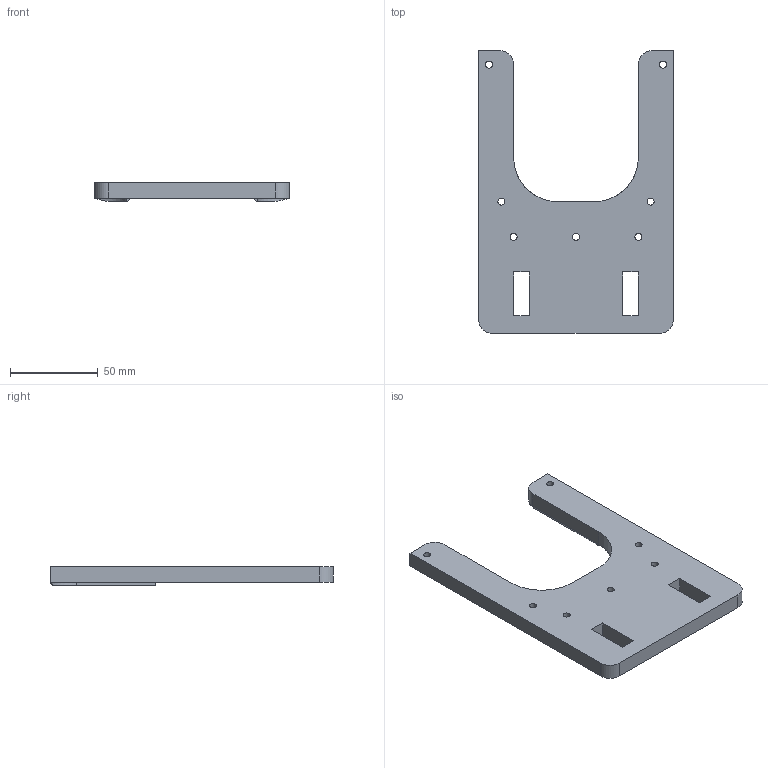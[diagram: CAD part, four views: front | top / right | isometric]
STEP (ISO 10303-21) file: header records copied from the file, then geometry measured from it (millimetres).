
FILE_DESCRIPTION(/* description */ ('STEP AP242 Edition 2','CAx-IF Rec.Pracs.---Representation and Presentation of Product Manufacturing Information (PMI)---4.0---2014-10-13','CAx-IF Rec.Pracs.---3D Tessellated Geometry---0.4---2014-09-14','2;1','CAx-IF Rec.Pracs.---User Defined Attributes---1.5---2016-08-15'),/* implementation_level */ '2;1');
FILE_NAME(/* name */ 'Part Studio 1 - upper_part',/* time_stamp */ '2026-04-19T16:25:01Z',/* author */ (''),/* organization */ (''),/* preprocessor_version */ 'ST-DEVELOPER v20',/* originating_system */ 'ONSHAPE BY PTC INC, 1.213',/* authorisation */ ' ');
FILE_SCHEMA (('AP242_MANAGED_MODEL_BASED_3D_ENGINEERING_MIM_LF { 1 0 10303 442 3 1 4 }'));
Length unit declared in the file: metre
Products named in the file (1): upper_part
Bounding box: 111 x 161 x 10.8 mm (x, y, z)
Volume: 103461.2 mm3; surface area: 31406.6 mm2
Topology: 1 solids, 1 shells, 47 faces, 127 edges, 82 vertices
Faces by surface type: plane 24, cylinder 19, torus 4
Full cylindrical faces by diameter (mm): 4 x7
Entity records: 1510 total; most frequent: CARTESIAN_POINT 264, DIRECTION 256, ORIENTED_EDGE 240, EDGE_CURVE 120, AXIS2_PLACEMENT_3D 92, VERTEX_POINT 82, LINE 72, VECTOR 72
